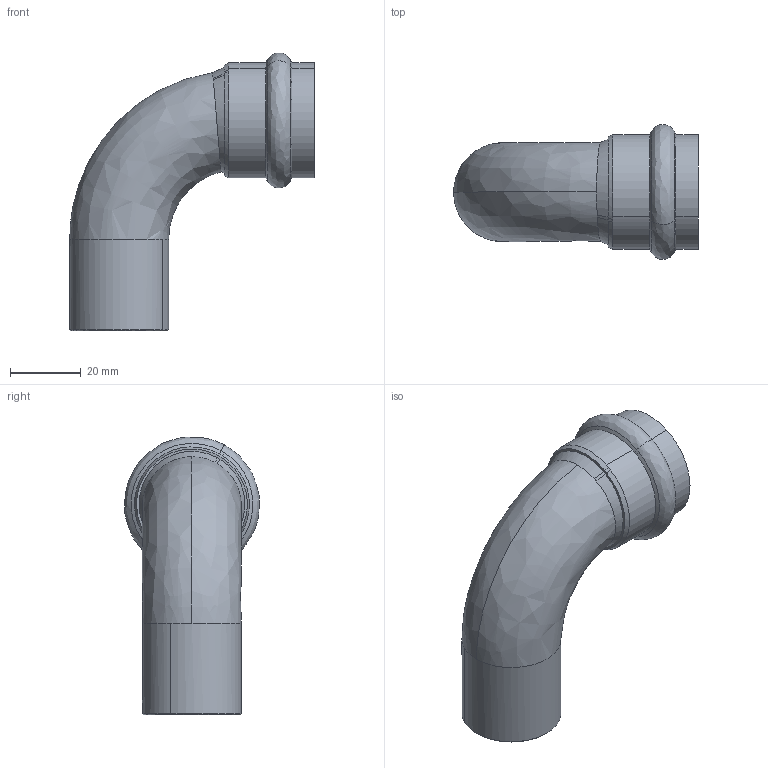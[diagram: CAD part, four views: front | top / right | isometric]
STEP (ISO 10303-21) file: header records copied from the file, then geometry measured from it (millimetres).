
FILE_DESCRIPTION(('STEP AP214'),'1');
FILE_NAME('pim0001154.stp','2015-03-16T15:33:11',('CAD-PIM'),('TransMagic, Inc.'),'TMR11sp0','TransMagic R11',' ');
FILE_SCHEMA(('AUTOMOTIVE_DESIGN'));
Length unit declared in the file: millimetre
Products named in the file (1): pim0001154
Bounding box: 69.2 x 38.13 x 78.64 mm (x, y, z)
Volume: 54251.5 mm3; surface area: 13217.6 mm2
Topology: 1 solids, 1 shells, 35 faces, 91 edges, 60 vertices
Faces by surface type: bspline 35
Entity records: 2145 total; most frequent: CARTESIAN_POINT 1355, ORIENTED_EDGE 182, EDGE_CURVE 91, VERTEX_POINT 60, EDGE_LOOP 37, STYLED_ITEM 36, PRESENTATION_STYLE_ASSIGNMENT 36, SURFACE_STYLE_USAGE 36
